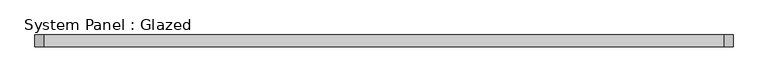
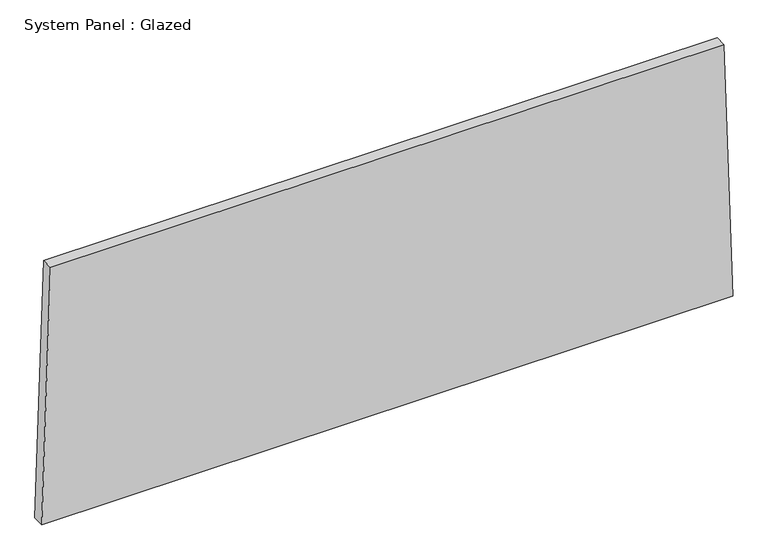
"""IFC4 building model written with IfcOpenShell, lengths in millimetres: plate geometry, System Panel : Glazed."""

from ifc_helpers import new_model, si_unit, frame, origin, place, context, project, spatial, polyline, outline, extrude, source, transform, mapped, element, save


def system_panel_glazed_39caee5c(model_context):
    return source(origin(), model_context, "Body", "SweptSolid", [
        extrude(outline(polyline([(0.0, -749.9060887), (0.0, 749.9060887), (583.8784387, 730.933843), (583.8784387, -730.933843), (0.0, -749.9060887)])), frame((0.0, 19.05, 0.0), z_axis=(0.0, 1.0, 0.0), x_axis=(0.0, 0.0, 1.0)), (0.0, 0.0, 1.0), 25.4),
    ])


if __name__ == "__main__":
    model = new_model("IFC4")
    model_context = context("Model", 3, world=origin())
    ifc_project = project(units=[si_unit("LENGTHUNIT", "METRE", prefix="MILLI")], contexts=[model_context])
    site = spatial("IfcSite", under=ifc_project)
    building = spatial("IfcBuilding", under=site)
    placement = place(None, origin())
    system_panel_glazed_shape = system_panel_glazed_39caee5c(model_context)
    element("IfcPlate", 1, ObjectType="System Panel : Glazed", at=placement, inside=building, context=model_context, shape_type="MappedRepresentation", body=[
        mapped(system_panel_glazed_shape, transform((0.0, 0.0, 0.0), x_axis=(1.0, 0.0, 0.0), y_axis=(0.0, 1.0, 0.0), z_axis=(0.0, 0.0, 1.0))),
    ])
    save(model, "model.ifc")
